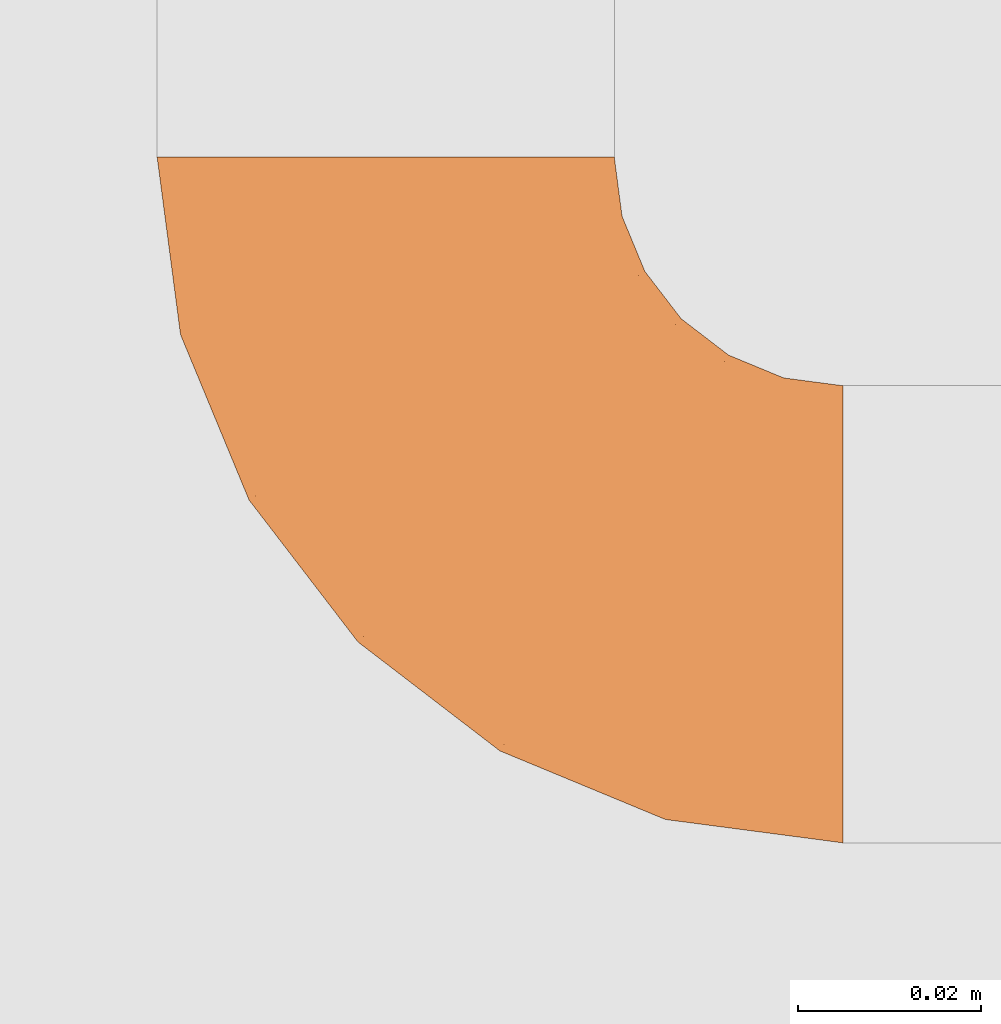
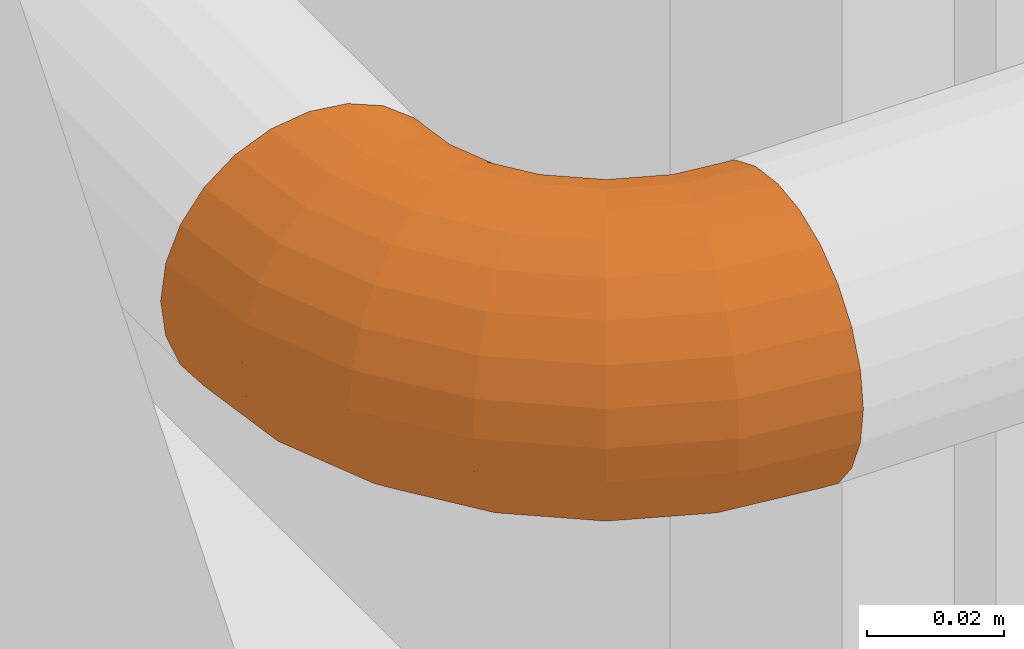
# One storey, part 109 of 112: 1 proxy.
"""IFC2X3 building model written with IfcOpenShell, lengths in millimetres."""

from ifc_helpers import new_model, entity, si_unit, converted_unit, derived_unit, money_unit, direction, frame, origin_with_axes, place, context, subcontext, project, spatial, faceted_brep, type_object, element, save


model = new_model("IFC2X3")

# Units and contexts
model_context = context("Model", 3, precision=0.01, world=origin_with_axes(), true_north=direction((0.0, 1.0)))
body_context = subcontext(model_context, "Body", "Model", "MODEL_VIEW")
ifc_project = project(units=[si_unit("LENGTHUNIT", "METRE", prefix="MILLI"), si_unit("AREAUNIT", "SQUARE_METRE"), si_unit("VOLUMEUNIT", "CUBIC_METRE"), converted_unit("PLANEANGLEUNIT", "DEGREE", entity("IfcPlaneAngleMeasure", 0.0174532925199), si_unit("PLANEANGLEUNIT", "RADIAN"), dimensions=[0, 0, 0, 0, 0, 0, 0]), si_unit("SOLIDANGLEUNIT", "STERADIAN"), money_unit("EUR"), converted_unit("TIMEUNIT", "Year", entity("IfcTimeMeasure", 31556926.0), si_unit("TIMEUNIT", "SECOND"), dimensions=[0, 0, 1, 0, 0, 0, 0]), si_unit("MASSUNIT", "GRAM", prefix="KILO"), si_unit("THERMODYNAMICTEMPERATUREUNIT", "DEGREE_CELSIUS"), si_unit("LUMINOUSINTENSITYUNIT", "LUMEN"), si_unit("ENERGYUNIT", "JOULE", prefix="MEGA"), derived_unit("THERMALCONDUCTANCEUNIT", [(si_unit("POWERUNIT", "WATT"), 1), (si_unit("LENGTHUNIT", "METRE"), -1), (si_unit("THERMODYNAMICTEMPERATUREUNIT", "KELVIN"), -1)]), derived_unit("SPECIFICHEATCAPACITYUNIT", [(si_unit("ENERGYUNIT", "JOULE"), 1), (si_unit("MASSUNIT", "GRAM", prefix="KILO"), -1), (si_unit("THERMODYNAMICTEMPERATUREUNIT", "KELVIN"), -1)]), derived_unit("MASSDENSITYUNIT", [(si_unit("MASSUNIT", "GRAM", prefix="KILO"), 1), (si_unit("VOLUMEUNIT", "CUBIC_METRE"), -1)])], contexts=[model_context])

# Site, building, storey
site_placement = place(None, origin_with_axes())
site = spatial("IfcSite", under=ifc_project, at=site_placement, Name="Politse- ja Piirivalveameti ning Päästeameti ühishoone", CompositionType="ELEMENT")
building_placement = place(site_placement, origin_with_axes())
building = spatial("IfcBuilding", under=site, at=building_placement, Name="Politse- ja Piirivalveameti ning Päästeameti ühishoone", CompositionType="ELEMENT")
storey_placement = place(building_placement, origin_with_axes())
storey = spatial("IfcBuildingStorey", under=building, at=storey_placement, Name="Esimene korrus", CompositionType="ELEMENT", Elevation=0.0)

# Proxy
building_element_proxy_type = type_object("IfcBuildingElementProxyType", Name="Elbow Tube 23", PredefinedType="NOTDEFINED")
proxy_placement = place(storey_placement, frame((63160.6441918, 18116.309139, 2925.0), z_axis=(0.0, 0.0, 1.0), x_axis=(0.0, 1.0, 0.0)))
element("IfcBuildingElementProxy", 1, at=proxy_placement, inside=storey, type_object=building_element_proxy_type, Name="Balloon Novec 1232", context=body_context, shape_type="Brep", body=[
    faceted_brep([(24.1481456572, 0.0, 6.47047612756), (21.6506350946, 0.0, 12.5), (17.6776695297, 0.0, 17.6776695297), (12.5, 0.0, 21.6506350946), (6.47047612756, 0.0, 24.1481456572), (0.0, 0.0, 25.0), (-6.47047612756, 0.0, 24.1481456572), (-12.5, 0.0, 21.6506350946), (-17.6776695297, 0.0, 17.6776695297), (-21.6506350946, 0.0, 12.5), (-24.1481456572, 0.0, 6.47047612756), (-25.0, 0.0, 0.0), (-24.1481456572, 0.0, -6.47047612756), (-21.6506350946, 0.0, -12.5), (-17.6776695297, 0.0, -17.6776695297), (-12.5, 0.0, -21.6506350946), (-6.47047612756, 0.0, -24.1481456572), (0.0, 0.0, -25.0), (6.47047612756, 0.0, -24.1481456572), (12.5, 0.0, -21.6506350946), (17.6776695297, 0.0, -17.6776695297), (21.6506350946, 0.0, -12.5), (24.1481456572, 0.0, -6.47047612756), (25.0, 0.0, 0.0), (17.6107524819, 0.0, -10.0), (14.4606088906, 0.0, -14.1421356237), (10.3552618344, 0.0, -17.3205080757), (5.57448393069, 0.0, -19.3185165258), (0.444077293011, 0.0, -20.0), (-4.68632934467, 0.0, -19.3185165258), (-9.46710724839, 0.0, -17.3205080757), (-13.5724543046, 0.0, -14.1421356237), (-16.7225978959, 0.0, -10.0), (-18.7028609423, 0.0, -5.17638090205), (-19.3782917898, 0.0, 0.0), (-18.7028609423, 0.0, 5.17638090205), (-16.7225978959, 0.0, 10.0), (-13.5724543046, 0.0, 14.1421356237), (-9.46710724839, 0.0, 17.3205080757), (-4.68632934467, 0.0, 19.3185165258), (0.444077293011, 0.0, 20.0), (5.57448393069, 0.0, 19.3185165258), (10.3552618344, 0.0, 17.3205080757), (14.4606088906, 0.0, 14.1421356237), (17.6107524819, 0.0, 10.0), (19.5910155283, 0.0, 5.17638090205), (20.2664463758, 0.0, 0.0), (19.5910155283, 0.0, -5.17638090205), (22.616616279, 7.33735555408, 12.5), (25.0290262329, 6.69095225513, 6.47047612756), (18.7790262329, 8.36563470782, 17.6776695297), (13.7777815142, 9.70571419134, 21.6506350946), (7.95370868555, 11.2662698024, 24.1481456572), (1.70370868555, 12.9409522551, 25.0), (-4.54629131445, 14.6156347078, 24.1481456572), (-10.3703641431, 16.1761903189, 21.6506350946), (-15.3716088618, 17.5162698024, 17.6776695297), (-19.2091989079, 18.5445489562, 12.5), (-21.6216088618, 19.1909522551, 6.47047612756), (-22.4444369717, 19.4114283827, 0.0), (-21.6216088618, 19.1909522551, -6.47047612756), (-19.2091989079, 18.5445489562, -12.5), (-15.3716088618, 17.5162698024, -17.6776695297), (-10.3703641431, 16.1761903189, -21.6506350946), (-4.54629131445, 14.6156347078, -24.1481456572), (1.70370868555, 12.9409522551, -25.0), (7.95370868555, 11.2662698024, -24.1481456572), (13.7777815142, 9.70571419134, -21.6506350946), (18.7790262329, 8.36563470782, -17.6776695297), (22.616616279, 7.33735555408, -12.5), (25.0290262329, 6.69095225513, -6.47047612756), (25.8518543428, 6.47047612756, 0.0), (17.9956460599, 6.60836752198, -10.0), (14.8829368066, 7.25109028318, -14.1421356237), (10.8263751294, 8.08870289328, -17.3205080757), (6.10240900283, 9.06412343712, -19.3185165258), (1.03296891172, 10.1108786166, -20.0), (-4.03647117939, 11.1576337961, -19.3185165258), (-8.76043730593, 12.1330543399, -17.3205080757), (-12.8169989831, 12.97066695, -14.1421356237), (-15.9297082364, 13.6133897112, -10.0), (-17.8864390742, 14.0174221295, -5.17638090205), (-18.5538435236, 14.1552300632, 0.0), (-17.8864390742, 14.0174221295, 5.17638090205), (-15.9297082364, 13.6133897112, 10.0), (-12.8169989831, 12.97066695, 14.1421356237), (-8.76043730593, 12.1330543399, 17.3205080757), (-4.03647117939, 11.1576337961, 19.3185165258), (1.03296891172, 10.1108786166, 20.0), (6.10240900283, 9.06412343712, 19.3185165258), (10.8263751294, 8.08870289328, 17.3205080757), (14.8829368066, 7.25109028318, 14.1421356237), (17.9956460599, 6.60836752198, 10.0), (19.9523768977, 6.2043351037, 5.17638090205), (20.619781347, 6.06652716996, 0.0), (19.9523768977, 6.2043351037, -5.17638090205), (25.4487298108, 14.1746824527, 12.5), (27.6116374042, 12.9259271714, 6.47047612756), (22.0080407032, 16.1611652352, 17.6776695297), (17.5240473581, 18.75, 21.6506350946), (12.3023265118, 21.7647619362, 24.1481456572), (6.69872981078, 25.0, 25.0), (1.09513310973, 28.2352380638, 24.1481456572), (-4.12658773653, 31.25, 21.6506350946), (-8.61058108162, 33.8388347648, 17.6776695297), (-12.0512701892, 35.8253175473, 12.5), (-14.2141777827, 37.0740728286, 6.47047612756), (-14.9519052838, 37.5, 0.0), (-14.2141777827, 37.0740728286, -6.47047612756), (-12.0512701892, 35.8253175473, -12.5), (-8.61058108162, 33.8388347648, -17.6776695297), (-4.12658773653, 31.25, -21.6506350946), (1.09513310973, 28.2352380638, -24.1481456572), (6.69872981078, 25.0, -25.0), (12.3023265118, 21.7647619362, -24.1481456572), (17.5240473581, 18.75, -21.6506350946), (22.0080407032, 16.1611652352, -17.6776695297), (25.4487298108, 14.1746824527, -12.5), (27.6116374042, 12.9259271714, -6.47047612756), (28.3493649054, 12.5, 0.0), (18.4378578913, 17.0181556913, -14.1421356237), (21.2354657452, 15.5096989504, -10.0), (14.7919443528, 18.9840147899, -17.3205080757), (10.5461881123, 21.2733061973, -19.3185165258), (5.98993044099, 23.7300184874, -20.0), (1.43367276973, 26.1867307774, -19.3185165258), (-2.81208347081, 28.4760221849, -17.3205080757), (-6.45799700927, 30.4418812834, -14.1421356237), (-9.25560486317, 31.9503380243, -10.0), (-11.0142546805, 32.8985935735, -5.17638090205), (-11.6140973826, 33.2220258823, 0.0), (-11.0142546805, 32.8985935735, 5.17638090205), (-9.25560486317, 31.9503380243, 10.0), (-6.45799700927, 30.4418812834, 14.1421356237), (-2.81208347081, 28.4760221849, 17.3205080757), (1.43367276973, 26.1867307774, 19.3185165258), (5.98993044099, 23.7300184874, 20.0), (10.5461881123, 21.2733061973, 19.3185165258), (14.7919443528, 18.9840147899, 17.3205080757), (18.4378578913, 17.0181556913, 14.1421356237), (21.2354657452, 15.5096989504, 10.0), (22.9941155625, 14.5614434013, 5.17638090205), (23.5939582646, 14.2380110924, 0.0), (22.9941155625, 14.5614434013, -5.17638090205), (29.9539718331, 20.0460281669, 12.5), (31.719978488, 18.280021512, 6.47047612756), (27.1446609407, 22.8553390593, 17.6776695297), (23.4834957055, 26.5165042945, 21.6506350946), (19.219978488, 30.780021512, 24.1481456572), (14.6446609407, 35.3553390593, 25.0), (10.0693433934, 39.9306566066, 24.1481456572), (5.80582617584, 44.1941738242, 21.6506350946), (2.14466094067, 47.8553390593, 17.6776695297), (-0.664649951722, 50.6646499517, 12.5), (-2.43065660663, 52.4306566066, 6.47047612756), (-3.03300858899, 53.033008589, 0.0), (-2.43065660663, 52.4306566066, -6.47047612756), (-0.664649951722, 50.6646499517, -12.5), (2.14466094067, 47.8553390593, -17.6776695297), (5.80582617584, 44.1941738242, -21.6506350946), (10.0693433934, 39.9306566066, -24.1481456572), (14.6446609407, 35.3553390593, -25.0), (19.219978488, 30.780021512, -24.1481456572), (23.4834957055, 26.5165042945, -21.6506350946), (27.1446609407, 22.8553390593, -17.6776695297), (29.9539718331, 20.0460281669, -12.5), (31.719978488, 18.280021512, -6.47047612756), (32.3223304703, 17.6776695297, 0.0), (24.6446609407, 25.3553390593, -14.1421356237), (26.8921096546, 23.1078903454, -10.0), (21.7157287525, 28.2842712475, -17.3205080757), (18.3049149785, 31.6950850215, -19.3185165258), (14.6446609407, 35.3553390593, -20.0), (10.9844069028, 39.0155930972, -19.3185165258), (7.57359312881, 42.4264068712, -17.3205080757), (4.64466094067, 45.3553390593, -14.1421356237), (2.39721222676, 47.6027877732, -10.0), (0.984406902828, 49.0155930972, -5.17638090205), (0.502525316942, 49.4974746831, 0.0), (0.984406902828, 49.0155930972, 5.17638090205), (2.39721222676, 47.6027877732, 10.0), (4.64466094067, 45.3553390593, 14.1421356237), (7.57359312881, 42.4264068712, 17.3205080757), (10.9844069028, 39.0155930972, 19.3185165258), (14.6446609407, 35.3553390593, 20.0), (18.3049149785, 31.6950850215, 19.3185165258), (21.7157287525, 28.2842712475, 17.3205080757), (24.6446609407, 25.3553390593, 14.1421356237), (26.8921096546, 23.1078903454, 10.0), (28.3049149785, 21.6950850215, 5.17638090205), (28.7867965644, 21.2132034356, 0.0), (28.3049149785, 21.6950850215, -5.17638090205), (35.8253175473, 24.5512701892, 12.5), (37.0740728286, 22.3883625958, 6.47047612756), (33.8388347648, 27.9919592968, 17.6776695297), (31.25, 32.4759526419, 21.6506350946), (28.2352380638, 37.6976734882, 24.1481456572), (25.0, 43.3012701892, 25.0), (21.7647619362, 48.9048668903, 24.1481456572), (18.75, 54.1265877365, 21.6506350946), (16.1611652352, 58.6105810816, 17.6776695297), (14.1746824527, 62.0512701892, 12.5), (12.9259271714, 64.2141777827, 6.47047612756), (12.5, 64.9519052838, 0.0), (12.9259271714, 64.2141777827, -6.47047612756), (14.1746824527, 62.0512701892, -12.5), (16.1611652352, 58.6105810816, -17.6776695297), (18.75, 54.1265877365, -21.6506350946), (21.7647619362, 48.9048668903, -24.1481456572), (25.0, 43.3012701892, -25.0), (28.2352380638, 37.6976734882, -24.1481456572), (31.25, 32.4759526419, -21.6506350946), (33.8388347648, 27.9919592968, -17.6776695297), (35.8253175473, 24.5512701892, -12.5), (37.0740728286, 22.3883625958, -6.47047612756), (37.5, 21.6506350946, 0.0), (32.9818443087, 31.5621421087, -14.1421356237), (34.4903010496, 28.7645342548, -10.0), (31.0159852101, 35.2080556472, -17.3205080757), (28.7266938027, 39.4538118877, -19.3185165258), (26.2699815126, 44.010069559, -20.0), (23.8132692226, 48.5663272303, -19.3185165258), (21.5239778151, 52.8120834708, -17.3205080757), (19.5581187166, 56.4579970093, -14.1421356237), (18.0496619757, 59.2556048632, -10.0), (17.1014064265, 61.0142546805, -5.17638090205), (16.7779741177, 61.6140973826, 0.0), (17.1014064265, 61.0142546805, 5.17638090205), (18.0496619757, 59.2556048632, 10.0), (19.5581187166, 56.4579970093, 14.1421356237), (21.5239778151, 52.8120834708, 17.3205080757), (23.8132692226, 48.5663272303, 19.3185165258), (26.2699815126, 44.010069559, 20.0), (28.7266938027, 39.4538118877, 19.3185165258), (31.0159852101, 35.2080556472, 17.3205080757), (32.9818443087, 31.5621421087, 14.1421356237), (34.4903010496, 28.7645342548, 10.0), (35.4385565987, 27.0058844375, 5.17638090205), (35.7619889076, 26.4060417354, 0.0), (35.4385565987, 27.0058844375, -5.17638090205), (42.6626444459, 27.383383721, 12.5), (43.3090477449, 24.9709737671, 6.47047612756), (41.6343652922, 31.2209737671, 17.6776695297), (40.2942858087, 36.2222184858, 21.6506350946), (38.7337301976, 42.0462913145, 24.1481456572), (37.0590477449, 48.2962913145, 25.0), (35.3843652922, 54.5462913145, 24.1481456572), (33.8238096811, 60.3703641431, 21.6506350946), (32.4837301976, 65.3716088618, 17.6776695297), (31.4554510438, 69.2091989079, 12.5), (30.8090477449, 71.6216088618, 6.47047612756), (30.5885716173, 72.4444369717, 0.0), (30.8090477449, 71.6216088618, -6.47047612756), (31.4554510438, 69.2091989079, -12.5), (32.4837301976, 65.3716088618, -17.6776695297), (33.8238096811, 60.3703641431, -21.6506350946), (35.3843652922, 54.5462913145, -24.1481456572), (37.0590477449, 48.2962913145, -25.0), (38.7337301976, 42.0462913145, -24.1481456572), (40.2942858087, 36.2222184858, -21.6506350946), (41.6343652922, 31.2209737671, -17.6776695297), (42.6626444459, 27.383383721, -12.5), (43.3090477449, 24.9709737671, -6.47047612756), (43.5295238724, 24.1481456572, 0.0), (42.7489097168, 35.1170631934, -14.1421356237), (43.391632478, 32.0043539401, -10.0), (41.9112971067, 39.1736248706, -17.3205080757), (40.9358765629, 43.8975909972, -19.3185165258), (39.8891213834, 48.9670310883, -20.0), (38.8423662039, 54.0364711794, -19.3185165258), (37.8669456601, 58.7604373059, -17.3205080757), (37.02933305, 62.8169989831, -14.1421356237), (36.3866102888, 65.9297082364, -10.0), (35.9825778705, 67.8864390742, -5.17638090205), (35.8447699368, 68.5538435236, 0.0), (35.9825778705, 67.8864390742, 5.17638090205), (36.3866102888, 65.9297082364, 10.0), (37.02933305, 62.8169989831, 14.1421356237), (37.8669456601, 58.7604373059, 17.3205080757), (38.8423662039, 54.0364711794, 19.3185165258), (39.8891213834, 48.9670310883, 20.0), (40.9358765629, 43.8975909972, 19.3185165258), (41.9112971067, 39.1736248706, 17.3205080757), (42.7489097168, 35.1170631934, 14.1421356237), (43.391632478, 32.0043539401, 10.0), (43.7956648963, 30.0476231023, 5.17638090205), (43.93347283, 29.380218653, 0.0), (43.7956648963, 30.0476231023, -5.17638090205), (50.0, 28.3493649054, 12.5), (50.0, 25.8518543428, 6.47047612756), (50.0, 32.3223304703, 17.6776695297), (50.0, 37.5, 21.6506350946), (50.0, 43.5295238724, 24.1481456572), (50.0, 50.0, 25.0), (50.0, 56.4704761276, 24.1481456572), (50.0, 62.5, 21.6506350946), (50.0, 67.6776695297, 17.6776695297), (50.0, 71.6506350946, 12.5), (50.0, 74.1481456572, 6.47047612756), (50.0, 75.0, 0.0), (50.0, 74.1481456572, -6.47047612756), (50.0, 71.6506350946, -12.5), (50.0, 67.6776695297, -17.6776695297), (50.0, 62.5, -21.6506350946), (50.0, 56.4704761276, -24.1481456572), (50.0, 50.0, -25.0), (50.0, 43.5295238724, -24.1481456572), (50.0, 37.5, -21.6506350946), (50.0, 32.3223304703, -17.6776695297), (50.0, 28.3493649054, -12.5), (50.0, 25.8518543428, -6.47047612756), (50.0, 25.0, 0.0), (50.0, 35.5393911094, -14.1421356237), (50.0, 32.3892475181, -10.0), (50.0, 39.6447381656, -17.3205080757), (50.0, 44.4255160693, -19.3185165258), (50.0, 49.555922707, -20.0), (50.0, 54.6863293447, -19.3185165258), (50.0, 59.4671072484, -17.3205080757), (50.0, 63.5724543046, -14.1421356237), (50.0, 66.7225978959, -10.0), (50.0, 68.7028609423, -5.17638090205), (50.0, 69.3782917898, 0.0), (50.0, 68.7028609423, 5.17638090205), (50.0, 66.7225978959, 10.0), (50.0, 63.5724543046, 14.1421356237), (50.0, 59.4671072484, 17.3205080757), (50.0, 54.6863293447, 19.3185165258), (50.0, 49.555922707, 20.0), (50.0, 44.4255160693, 19.3185165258), (50.0, 39.6447381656, 17.3205080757), (50.0, 35.5393911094, 14.1421356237), (50.0, 32.3892475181, 10.0), (50.0, 30.4089844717, 5.17638090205), (50.0, 29.7335536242, 0.0), (50.0, 30.4089844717, -5.17638090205)], [[[0, 1, 2, 3, 4, 5, 6, 7, 8, 9, 10, 11, 12, 13, 14, 15, 16, 17, 18, 19, 20, 21, 22, 23], [24, 25, 26, 27, 28, 29, 30, 31, 32, 33, 34, 35, 36, 37, 38, 39, 40, 41, 42, 43, 44, 45, 46, 47]], [[48, 1, 0, 49]], [[50, 2, 1, 48]], [[51, 3, 2, 50]], [[52, 4, 3, 51]], [[53, 5, 4, 52]], [[54, 6, 5, 53]], [[55, 7, 6, 54]], [[56, 8, 7, 55]], [[57, 9, 8, 56]], [[58, 10, 9, 57]], [[59, 11, 10, 58]], [[60, 12, 11, 59]], [[61, 13, 12, 60]], [[62, 14, 13, 61]], [[63, 15, 14, 62]], [[64, 16, 15, 63]], [[65, 17, 16, 64]], [[66, 18, 17, 65]], [[67, 19, 18, 66]], [[68, 20, 19, 67]], [[69, 21, 20, 68]], [[70, 22, 21, 69]], [[71, 23, 22, 70]], [[49, 0, 23, 71]], [[24, 72, 73, 25]], [[25, 73, 74, 26]], [[26, 74, 75, 27]], [[27, 75, 76, 28]], [[28, 76, 77, 29]], [[29, 77, 78, 30]], [[30, 78, 79, 31]], [[31, 79, 80, 32]], [[32, 80, 81, 33]], [[33, 81, 82, 34]], [[34, 82, 83, 35]], [[35, 83, 84, 36]], [[36, 84, 85, 37]], [[37, 85, 86, 38]], [[38, 86, 87, 39]], [[39, 87, 88, 40]], [[40, 88, 89, 41]], [[41, 89, 90, 42]], [[42, 90, 91, 43]], [[43, 91, 92, 44]], [[44, 92, 93, 45]], [[45, 93, 94, 46]], [[46, 94, 95, 47]], [[47, 95, 72, 24]], [[96, 48, 49, 97]], [[98, 50, 48, 96]], [[99, 51, 50, 98]], [[100, 52, 51, 99]], [[101, 53, 52, 100]], [[102, 54, 53, 101]], [[103, 55, 54, 102]], [[104, 56, 55, 103]], [[105, 57, 56, 104]], [[106, 58, 57, 105]], [[107, 59, 58, 106]], [[108, 60, 59, 107]], [[109, 61, 60, 108]], [[110, 62, 61, 109]], [[111, 63, 62, 110]], [[112, 64, 63, 111]], [[113, 65, 64, 112]], [[114, 66, 65, 113]], [[115, 67, 66, 114]], [[116, 68, 67, 115]], [[117, 69, 68, 116]], [[118, 70, 69, 117]], [[119, 71, 70, 118]], [[97, 49, 71, 119]], [[120, 73, 72, 121]], [[122, 74, 73, 120]], [[123, 75, 74, 122]], [[124, 76, 75, 123]], [[125, 77, 76, 124]], [[126, 78, 77, 125]], [[127, 79, 78, 126]], [[128, 80, 79, 127]], [[129, 81, 80, 128]], [[130, 82, 81, 129]], [[131, 83, 82, 130]], [[132, 84, 83, 131]], [[133, 85, 84, 132]], [[134, 86, 85, 133]], [[135, 87, 86, 134]], [[136, 88, 87, 135]], [[137, 89, 88, 136]], [[138, 90, 89, 137]], [[139, 91, 90, 138]], [[140, 92, 91, 139]], [[141, 93, 92, 140]], [[142, 94, 93, 141]], [[143, 95, 94, 142]], [[121, 72, 95, 143]], [[144, 96, 97, 145]], [[146, 98, 96, 144]], [[147, 99, 98, 146]], [[148, 100, 99, 147]], [[149, 101, 100, 148]], [[150, 102, 101, 149]], [[151, 103, 102, 150]], [[152, 104, 103, 151]], [[153, 105, 104, 152]], [[154, 106, 105, 153]], [[155, 107, 106, 154]], [[156, 108, 107, 155]], [[157, 109, 108, 156]], [[158, 110, 109, 157]], [[159, 111, 110, 158]], [[160, 112, 111, 159]], [[161, 113, 112, 160]], [[162, 114, 113, 161]], [[163, 115, 114, 162]], [[164, 116, 115, 163]], [[165, 117, 116, 164]], [[166, 118, 117, 165]], [[167, 119, 118, 166]], [[145, 97, 119, 167]], [[168, 120, 121, 169]], [[170, 122, 120, 168]], [[171, 123, 122, 170]], [[172, 124, 123, 171]], [[173, 125, 124, 172]], [[174, 126, 125, 173]], [[175, 127, 126, 174]], [[176, 128, 127, 175]], [[177, 129, 128, 176]], [[178, 130, 129, 177]], [[179, 131, 130, 178]], [[180, 132, 131, 179]], [[181, 133, 132, 180]], [[182, 134, 133, 181]], [[183, 135, 134, 182]], [[184, 136, 135, 183]], [[185, 137, 136, 184]], [[186, 138, 137, 185]], [[187, 139, 138, 186]], [[188, 140, 139, 187]], [[189, 141, 140, 188]], [[190, 142, 141, 189]], [[191, 143, 142, 190]], [[169, 121, 143, 191]], [[192, 144, 145, 193]], [[194, 146, 144, 192]], [[195, 147, 146, 194]], [[196, 148, 147, 195]], [[197, 149, 148, 196]], [[198, 150, 149, 197]], [[199, 151, 150, 198]], [[200, 152, 151, 199]], [[201, 153, 152, 200]], [[202, 154, 153, 201]], [[203, 155, 154, 202]], [[204, 156, 155, 203]], [[205, 157, 156, 204]], [[206, 158, 157, 205]], [[207, 159, 158, 206]], [[208, 160, 159, 207]], [[209, 161, 160, 208]], [[210, 162, 161, 209]], [[211, 163, 162, 210]], [[212, 164, 163, 211]], [[213, 165, 164, 212]], [[214, 166, 165, 213]], [[215, 167, 166, 214]], [[193, 145, 167, 215]], [[216, 168, 169, 217]], [[218, 170, 168, 216]], [[219, 171, 170, 218]], [[220, 172, 171, 219]], [[221, 173, 172, 220]], [[222, 174, 173, 221]], [[223, 175, 174, 222]], [[224, 176, 175, 223]], [[225, 177, 176, 224]], [[226, 178, 177, 225]], [[227, 179, 178, 226]], [[228, 180, 179, 227]], [[229, 181, 180, 228]], [[230, 182, 181, 229]], [[231, 183, 182, 230]], [[232, 184, 183, 231]], [[233, 185, 184, 232]], [[234, 186, 185, 233]], [[235, 187, 186, 234]], [[236, 188, 187, 235]], [[237, 189, 188, 236]], [[238, 190, 189, 237]], [[239, 191, 190, 238]], [[217, 169, 191, 239]], [[240, 192, 193, 241]], [[242, 194, 192, 240]], [[243, 195, 194, 242]], [[244, 196, 195, 243]], [[245, 197, 196, 244]], [[246, 198, 197, 245]], [[247, 199, 198, 246]], [[248, 200, 199, 247]], [[249, 201, 200, 248]], [[250, 202, 201, 249]], [[251, 203, 202, 250]], [[252, 204, 203, 251]], [[253, 205, 204, 252]], [[254, 206, 205, 253]], [[255, 207, 206, 254]], [[256, 208, 207, 255]], [[257, 209, 208, 256]], [[258, 210, 209, 257]], [[259, 211, 210, 258]], [[260, 212, 211, 259]], [[261, 213, 212, 260]], [[262, 214, 213, 261]], [[263, 215, 214, 262]], [[241, 193, 215, 263]], [[264, 216, 217, 265]], [[266, 218, 216, 264]], [[267, 219, 218, 266]], [[268, 220, 219, 267]], [[269, 221, 220, 268]], [[270, 222, 221, 269]], [[271, 223, 222, 270]], [[272, 224, 223, 271]], [[273, 225, 224, 272]], [[274, 226, 225, 273]], [[275, 227, 226, 274]], [[276, 228, 227, 275]], [[277, 229, 228, 276]], [[278, 230, 229, 277]], [[279, 231, 230, 278]], [[280, 232, 231, 279]], [[281, 233, 232, 280]], [[282, 234, 233, 281]], [[283, 235, 234, 282]], [[284, 236, 235, 283]], [[285, 237, 236, 284]], [[286, 238, 237, 285]], [[287, 239, 238, 286]], [[265, 217, 239, 287]], [[288, 240, 241, 289]], [[290, 242, 240, 288]], [[291, 243, 242, 290]], [[292, 244, 243, 291]], [[293, 245, 244, 292]], [[294, 246, 245, 293]], [[295, 247, 246, 294]], [[296, 248, 247, 295]], [[297, 249, 248, 296]], [[298, 250, 249, 297]], [[299, 251, 250, 298]], [[300, 252, 251, 299]], [[301, 253, 252, 300]], [[302, 254, 253, 301]], [[303, 255, 254, 302]], [[304, 256, 255, 303]], [[305, 257, 256, 304]], [[306, 258, 257, 305]], [[307, 259, 258, 306]], [[308, 260, 259, 307]], [[309, 261, 260, 308]], [[310, 262, 261, 309]], [[311, 263, 262, 310]], [[289, 241, 263, 311]], [[312, 264, 265, 313]], [[314, 266, 264, 312]], [[315, 267, 266, 314]], [[316, 268, 267, 315]], [[317, 269, 268, 316]], [[318, 270, 269, 317]], [[319, 271, 270, 318]], [[320, 272, 271, 319]], [[321, 273, 272, 320]], [[322, 274, 273, 321]], [[323, 275, 274, 322]], [[324, 276, 275, 323]], [[325, 277, 276, 324]], [[326, 278, 277, 325]], [[327, 279, 278, 326]], [[328, 280, 279, 327]], [[329, 281, 280, 328]], [[330, 282, 281, 329]], [[331, 283, 282, 330]], [[332, 284, 283, 331]], [[333, 285, 284, 332]], [[334, 286, 285, 333]], [[335, 287, 286, 334]], [[313, 265, 287, 335]], [[310, 309, 308, 307, 306, 305, 304, 303, 302, 301, 300, 299, 298, 297, 296, 295, 294, 293, 292, 291, 290, 288, 289, 311], [326, 325, 324, 323, 322, 321, 320, 319, 318, 317, 316, 315, 314, 312, 313, 335, 334, 333, 332, 331, 330, 329, 328, 327]]]),
])

save(model, "model.ifc")
